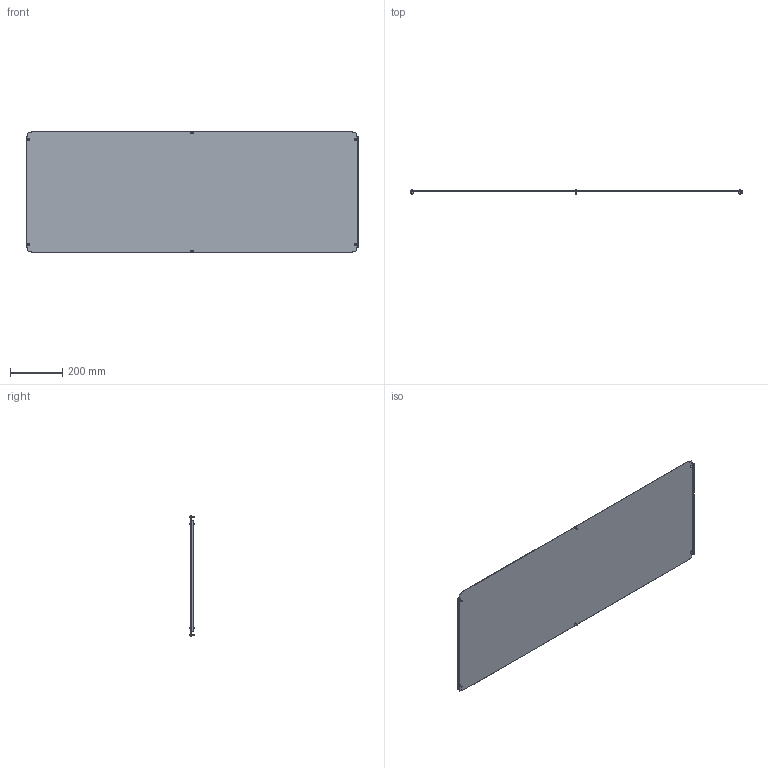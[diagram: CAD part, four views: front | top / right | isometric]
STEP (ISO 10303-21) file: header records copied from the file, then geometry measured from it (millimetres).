
FILE_DESCRIPTION (( 'STEP AP203' ), '1' );
FILE_NAME ('R5N1BP146.STEP', '2025-02-21T14:01:24', ( '' ), ( '' ), 'SwSTEP 2.0', 'SolidWorks 2022', '' );
FILE_SCHEMA (( 'CONFIG_CONTROL_DESIGN' ));
Length unit declared in the file: millimetre
Products named in the file (3): M5x12 DIN 7500 C Torx Zinc_stright; RB.1923.00.00.0_-30; R5N1BP146
Assembly tree (7 placements, depth 2):
  R5N1BP146
    RB.1923.00.00.0_-30
    M5x12 DIN 7500 C Torx Zinc_stright  x6
Bounding box: 1268 x 15.56 x 462 mm (x, y, z)
Volume: 889336 mm3; surface area: 1190369.4 mm2
Topology: 7 solids, 7 shells, 166 faces, 384 edges, 238 vertices
Faces by surface type: plane 106, cylinder 24, torus 12, cone 12, sphere 6, bspline 6
Full cylindrical faces by diameter (mm): 5 x6, 9.5 x6
Entity records: 3297 total; most frequent: CARTESIAN_POINT 674, ORIENTED_EDGE 448, DIRECTION 444, EDGE_CURVE 224, LINE 180, VECTOR 180, VERTEX_POINT 150, AXIS2_PLACEMENT_3D 132
